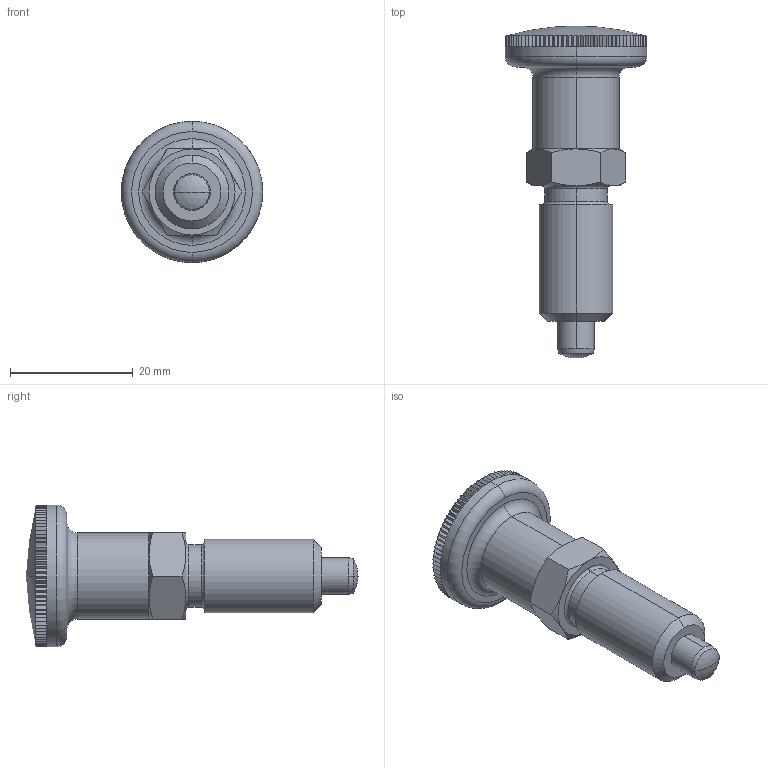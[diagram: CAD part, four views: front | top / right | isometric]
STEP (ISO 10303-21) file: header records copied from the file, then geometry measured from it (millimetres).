
FILE_DESCRIPTION (( 'STEP AP203' ), '1' );
FILE_NAME ('32690.W0129.step', '2011-03-25T12:21:42', ( 'Wixroyd' ), ( 'Wixroyd' ), 'SwSTEP 2.0', 'SolidWorks 2009', '' );
FILE_SCHEMA (( 'CONFIG_CONTROL_DESIGN' ));
Length unit declared in the file: millimetre
Products named in the file (4): Part3_3269.W129; 32690.W0129; Part1_3269.W129; Part2_3269.W129
Assembly tree (3 placements, depth 2):
  32690.W0129
    Part1_3269.W129
    Part3_3269.W129
    Part2_3269.W129
Bounding box: 23 x 54 x 23 mm (x, y, z)
Volume: 7494.2 mm3; surface area: 5397.6 mm2
Topology: 3 solids, 3 shells, 354 faces, 814 edges, 472 vertices
Faces by surface type: plane 305, cylinder 21, cone 16, torus 8, sphere 4
Entity records: 10376 total; most frequent: DIRECTION 1870, CARTESIAN_POINT 1790, ORIENTED_EDGE 1628, EDGE_CURVE 814, AXIS2_PLACEMENT_3D 720, VERTEX_POINT 472, VECTOR 430, LINE 430
